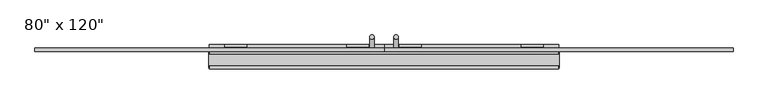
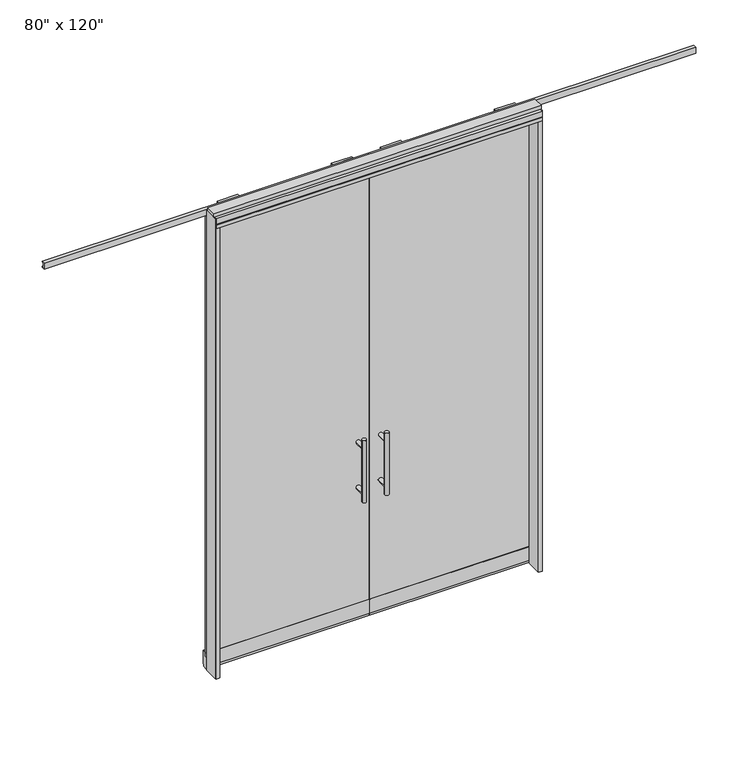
"""IFC4 building model written with IfcOpenShell, lengths in millimetres: furniture geometry."""

from ifc_helpers import new_model, si_unit, frame, origin, origin_with_axes, place, context, project, spatial, polyline, circle_curve, ellipse_curve, outline, extrude, source, transform, mapped, element, save
from ifc_brep_helpers import plane_surface, cylinder_surface, advanced_brep


def furniture_37c0ffb3(model_context):
    return source(origin(), model_context, "Body", "SolidModel", [
        extrude(outline(polyline([(-1072.0995229, 71.8277216), (-60.0365229, 71.8277216), (-60.0365229, 61.6677216), (-1072.0995229, 61.6677216), (-1072.0995229, 71.8277216)])), frame((0.0, 0.0, 77.851), z_axis=(0.0, 0.0, 1.0), x_axis=(1.0, 0.0, 0.0)), (0.0, 0.0, 1.0), 2897.759),
        advanced_brep(
        [(-117.3135229, -5.8962784, 1219.2), (-142.7135229, -5.8962784, 1219.2), (-117.3135229, -5.8962784, 812.8), (-142.7135229, -5.8962784, 812.8), (-142.7135229, -5.8962784, 1164.336), (-142.7135229, -5.8962784, 867.664), (-117.3135229, -5.8962784, 867.664), (-117.3135229, -5.8962784, 1164.336), (-117.3135229, 61.6677216, 1164.336), (-142.7135229, 61.6677216, 1164.336), (-117.3135229, 61.6677216, 867.664), (-142.7135229, 61.6677216, 867.664)],
        [
            (0, 1, circle_curve(frame((-130.0135229, -5.8962784, 1219.2), z_axis=(0.0, 0.0, 1.0), x_axis=(-1.0, 0.0, 0.0)), 12.7)),
            (1, 0, circle_curve(frame((-130.0135229, -5.8962784, 1219.2), z_axis=(0.0, 0.0, 1.0), x_axis=(-1.0, 0.0, 0.0)), 12.7)),
            (2, 3, circle_curve(frame((-130.0135229, -5.8962784, 812.8), z_axis=(0.0, 0.0, -1.0), x_axis=(-1.0, 0.0, 0.0)), 12.7)),
            (3, 2, circle_curve(frame((-130.0135229, -5.8962784, 812.8), z_axis=(0.0, 0.0, -1.0), x_axis=(-1.0, 0.0, 0.0)), 12.7)),
            (1, 4),
            (4, 5),
            (5, 3),
            (2, 6),
            (6, 7),
            (7, 0),
            (7, 4, ellipse_curve(frame((-130.0135229, -5.8962784, 1164.336), z_axis=(0.0, -0.707106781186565, 0.70710678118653), x_axis=(0.0, 0.70710678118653, 0.707106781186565)), 17.9605122, 12.7)),
            (6, 5, ellipse_curve(frame((-130.0135229, -5.8962784, 867.664), z_axis=(0.0, -0.707106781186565, 0.70710678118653), x_axis=(0.0, 0.70710678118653, 0.707106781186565)), 17.9605122, 12.7)),
            (4, 7, ellipse_curve(frame((-130.0135229, -5.8962784, 1164.336), z_axis=(0.0, -0.70710678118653, -0.7071067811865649), x_axis=(0.0, -0.7071067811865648, 0.7071067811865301)), 17.9605122, 12.7)),
            (5, 6, ellipse_curve(frame((-130.0135229, -5.8962784, 867.664), z_axis=(0.0, -0.70710678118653, -0.7071067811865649), x_axis=(0.0, -0.7071067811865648, 0.7071067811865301)), 17.9605122, 12.7)),
            (8, 9, circle_curve(frame((-130.0135229, 61.6677216, 1164.336), z_axis=(0.0, 1.0, 0.0), x_axis=(-1.0, 0.0, 0.0)), 12.7)),
            (9, 8, circle_curve(frame((-130.0135229, 61.6677216, 1164.336), z_axis=(0.0, 1.0, 0.0), x_axis=(-1.0, 0.0, 0.0)), 12.7)),
            (8, 7),
            (4, 9),
            (10, 11, circle_curve(frame((-130.0135229, 61.6677216, 867.664), z_axis=(0.0, 1.0, 0.0), x_axis=(-1.0, 0.0, 0.0)), 12.7)),
            (11, 10, circle_curve(frame((-130.0135229, 61.6677216, 867.664), z_axis=(0.0, 1.0, 0.0), x_axis=(-1.0, 0.0, 0.0)), 12.7)),
            (10, 6),
            (5, 11),
        ],
        [
            plane_surface(frame((-142.7135229, -5.8962784, 1219.2), z_axis=(0.0, 0.0, 1.0), x_axis=(0.0, 1.0, 0.0))),
            plane_surface(frame((-142.7135229, -5.8962784, 812.8), z_axis=(0.0, 0.0, -1.0), x_axis=(0.0, -1.0, 0.0))),
            cylinder_surface(frame((-130.0135229, -5.8962784, 812.8), z_axis=(0.0, 0.0, 1.0), x_axis=(-1.0, 0.0, 0.0)), 12.7),
            plane_surface(frame((-142.7135229, 61.6677216, 1164.336), z_axis=(0.0, 1.0, 0.0), x_axis=(0.0, 0.0, -1.0))),
            cylinder_surface(frame((-130.0135229, 61.6677216, 1164.336), z_axis=(0.0, -1.0, 0.0), x_axis=(-1.0, 0.0, 0.0)), 12.7),
            plane_surface(frame((-142.7135229, 61.6677216, 867.664), z_axis=(0.0, 1.0, 0.0), x_axis=(0.0, 0.0, -1.0))),
            cylinder_surface(frame((-130.0135229, 61.6677216, 867.664), z_axis=(0.0, -1.0, 0.0), x_axis=(-1.0, 0.0, 0.0)), 12.7),
        ],
        [
            (0, [[1, 2]]),
            (1, [[3, 4]]),
            (2, [[5, 6, 7, -3, 8, 9, 10, -2]]),
            (2, [[-10, 11, -5, -1]]),
            (2, [[-9, 12, -6, 13]]),
            (2, [[-7, 14, -8, -4]]),
            (3, [[15, 16]]),
            (4, [[17, -13, 18, -15]]),
            (4, [[-18, -11, -17, -16]]),
            (5, [[19, 20]]),
            (6, [[21, -14, 22, -19]]),
            (6, [[-22, -12, -21, -20]]),
        ],
    ),
        advanced_brep(
        [(-117.3135229, 139.3917216, 1219.2), (-142.7135229, 139.3917216, 1219.2), (-117.3135229, 139.3917216, 812.8), (-142.7135229, 139.3917216, 812.8), (-117.3135229, 139.3917216, 1164.336), (-117.3135229, 139.3917216, 867.664), (-142.7135229, 139.3917216, 867.664), (-142.7135229, 139.3917216, 1164.336), (-117.3135229, 71.8277216, 1164.336), (-142.7135229, 71.8277216, 1164.336), (-117.3135229, 71.8277216, 867.664), (-142.7135229, 71.8277216, 867.664)],
        [
            (0, 1, circle_curve(frame((-130.0135229, 139.3917216, 1219.2), z_axis=(0.0, 0.0, 1.0), x_axis=(-1.0, 0.0, 0.0)), 12.7)),
            (1, 0, circle_curve(frame((-130.0135229, 139.3917216, 1219.2), z_axis=(0.0, 0.0, 1.0), x_axis=(-1.0, 0.0, 0.0)), 12.7)),
            (2, 3, circle_curve(frame((-130.0135229, 139.3917216, 812.8), z_axis=(0.0, 0.0, -1.0), x_axis=(-1.0, 0.0, 0.0)), 12.7)),
            (3, 2, circle_curve(frame((-130.0135229, 139.3917216, 812.8), z_axis=(0.0, 0.0, -1.0), x_axis=(-1.0, 0.0, 0.0)), 12.7)),
            (0, 4),
            (4, 5),
            (5, 2),
            (3, 6),
            (6, 7),
            (7, 1),
            (7, 4, ellipse_curve(frame((-130.0135229, 139.3917216, 1164.336), z_axis=(0.0, 0.707106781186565, 0.70710678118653), x_axis=(0.0, -0.70710678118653, 0.707106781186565)), 17.9605122, 12.7)),
            (5, 6, ellipse_curve(frame((-130.0135229, 139.3917216, 867.664), z_axis=(0.0, 0.70710678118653, -0.7071067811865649), x_axis=(0.0, 0.7071067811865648, 0.7071067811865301)), 17.9605122, 12.7)),
            (4, 7, ellipse_curve(frame((-130.0135229, 139.3917216, 1164.336), z_axis=(0.0, 0.70710678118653, -0.7071067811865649), x_axis=(0.0, 0.7071067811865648, 0.7071067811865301)), 17.9605122, 12.7)),
            (6, 5, ellipse_curve(frame((-130.0135229, 139.3917216, 867.664), z_axis=(0.0, 0.707106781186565, 0.70710678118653), x_axis=(0.0, -0.70710678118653, 0.707106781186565)), 17.9605122, 12.7)),
            (8, 9, circle_curve(frame((-130.0135229, 71.8277216, 1164.336), z_axis=(0.0, -1.0, 0.0), x_axis=(-1.0, 0.0, 0.0)), 12.7)),
            (9, 8, circle_curve(frame((-130.0135229, 71.8277216, 1164.336), z_axis=(0.0, -1.0, 0.0), x_axis=(-1.0, 0.0, 0.0)), 12.7)),
            (9, 7),
            (4, 8),
            (10, 11, circle_curve(frame((-130.0135229, 71.8277216, 867.664), z_axis=(0.0, -1.0, 0.0), x_axis=(-1.0, 0.0, 0.0)), 12.7)),
            (11, 10, circle_curve(frame((-130.0135229, 71.8277216, 867.664), z_axis=(0.0, -1.0, 0.0), x_axis=(-1.0, 0.0, 0.0)), 12.7)),
            (11, 6),
            (5, 10),
        ],
        [
            plane_surface(frame((-142.7135229, 139.3917216, 1219.2), z_axis=(0.0, 0.0, 1.0), x_axis=(0.0, -1.0, 0.0))),
            plane_surface(frame((-142.7135229, 139.3917216, 812.8), z_axis=(0.0, 0.0, -1.0), x_axis=(0.0, 1.0, 0.0))),
            cylinder_surface(frame((-130.0135229, 139.3917216, 812.8), z_axis=(0.0, 0.0, 1.0), x_axis=(-1.0, 0.0, 0.0)), 12.7),
            plane_surface(frame((-142.7135229, 71.8277216, 1164.336), z_axis=(0.0, -1.0, 0.0), x_axis=(0.0, 0.0, -1.0))),
            cylinder_surface(frame((-130.0135229, 71.8277216, 1164.336), z_axis=(0.0, 1.0, 0.0), x_axis=(-1.0, 0.0, 0.0)), 12.7),
            plane_surface(frame((-142.7135229, 71.8277216, 867.664), z_axis=(0.0, -1.0, 0.0), x_axis=(0.0, 0.0, -1.0))),
            cylinder_surface(frame((-130.0135229, 71.8277216, 867.664), z_axis=(0.0, 1.0, 0.0), x_axis=(-1.0, 0.0, 0.0)), 12.7),
        ],
        [
            (0, [[1, 2]]),
            (1, [[3, 4]]),
            (2, [[-1, 5, 6, 7, -4, 8, 9, 10]]),
            (2, [[-2, -10, 11, -5]]),
            (2, [[-3, -7, 12, -8]]),
            (2, [[13, -9, 14, -6]]),
            (3, [[15, 16]]),
            (4, [[-16, 17, -13, 18]]),
            (4, [[-15, -18, -11, -17]]),
            (5, [[19, 20]]),
            (6, [[-20, 21, -12, 22]]),
            (6, [[-19, -22, -14, -21]]),
        ],
    ),
        extrude(outline(polyline([(61.4137216, 2933.7), (57.8577216, 2933.7), (57.8577216, 2981.579), (80.4637216, 2981.579), (80.4637216, 3022.6), (95.9577216, 3022.6), (95.9577216, 2933.7), (73.7327216, 2933.7), (73.7327216, 2975.61), (61.4137216, 2975.61), (61.4137216, 2933.7)])), frame((-276.3175229, 0.0, 0.0), z_axis=(1.0, 0.0, 0.0), x_axis=(0.0, 1.0, 0.0)), (0.0, 0.0, 1.0), 128.016),
        extrude(outline(polyline([(61.4137216, 2933.7), (57.8577216, 2933.7), (57.8577216, 2981.579), (80.4637216, 2981.579), (80.4637216, 3022.6), (95.9577216, 3022.6), (95.9577216, 2933.7), (73.7327216, 2933.7), (73.7327216, 2975.61), (61.4137216, 2975.61), (61.4137216, 2933.7)])), frame((-983.8345229, 0.0, 0.0), z_axis=(1.0, 0.0, 0.0), x_axis=(0.0, 1.0, 0.0)), (0.0, 0.0, 1.0), 128.016),
        extrude(outline(polyline([(75.3837216, 2986.278), (53.6667216, 2986.278), (53.6667216, 3025.902), (75.3837216, 3025.902), (75.3837216, 3020.568), (62.6837216, 3020.568), (62.6837216, 2991.612), (75.3837216, 2991.612), (75.3837216, 2986.278)])), frame((-2084.1625229, 0.0, 0.0), z_axis=(1.0, 0.0, 0.0), x_axis=(0.0, 1.0, 0.0)), (0.0, 0.0, 1.0), 2024.126),
        extrude(outline(polyline([(72.3357216, 77.851), (72.3357216, 105.664), (94.5607216, 105.664), (94.5607216, 16.764), (90.7507216, 16.764), (90.7507216, 0.0), (61.6677216, 0.0), (61.6677216, 16.764), (57.8577216, 16.764), (57.8577216, 105.664), (61.4137216, 105.664), (61.4137216, 77.851), (72.3357216, 77.851)])), frame((-1072.0995229, 0.0, 0.0), z_axis=(1.0, 0.0, 0.0), x_axis=(0.0, 1.0, 0.0)), (0.0, 0.0, 1.0), 1012.063),
        extrude(outline(polyline([(952.0264771, 71.8277216), (952.0264771, 61.6677216), (-60.0365229, 61.6677216), (-60.0365229, 71.8277216), (952.0264771, 71.8277216)])), frame((0.0, 0.0, 77.851), z_axis=(0.0, 0.0, 1.0), x_axis=(1.0, 0.0, 0.0)), (0.0, 0.0, 1.0), 2897.759),
        advanced_brep(
        [(-2.7595229, -5.8962784, 1219.2), (22.6404771, -5.8962784, 1219.2), (-2.7595229, -5.8962784, 812.8), (22.6404771, -5.8962784, 812.8), (-2.7595229, -5.8962784, 1164.336), (-2.7595229, -5.8962784, 867.664), (22.6404771, -5.8962784, 867.664), (22.6404771, -5.8962784, 1164.336), (-2.7595229, 61.6677216, 1164.336), (22.6404771, 61.6677216, 1164.336), (-2.7595229, 61.6677216, 867.664), (22.6404771, 61.6677216, 867.664)],
        [
            (0, 1, circle_curve(frame((9.9404771, -5.8962784, 1219.2), z_axis=(0.0, 0.0, 1.0), x_axis=(1.0, 0.0, 0.0)), 12.7)),
            (1, 0, circle_curve(frame((9.9404771, -5.8962784, 1219.2), z_axis=(0.0, 0.0, 1.0), x_axis=(1.0, 0.0, 0.0)), 12.7)),
            (2, 3, circle_curve(frame((9.9404771, -5.8962784, 812.8), z_axis=(0.0, 0.0, -1.0), x_axis=(1.0, 0.0, 0.0)), 12.7)),
            (3, 2, circle_curve(frame((9.9404771, -5.8962784, 812.8), z_axis=(0.0, 0.0, -1.0), x_axis=(1.0, 0.0, 0.0)), 12.7)),
            (0, 4),
            (4, 5),
            (5, 2),
            (3, 6),
            (6, 7),
            (7, 1),
            (7, 4, ellipse_curve(frame((9.9404771, -5.8962784, 1164.336), z_axis=(0.0, -0.707106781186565, 0.70710678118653), x_axis=(0.0, 0.70710678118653, 0.707106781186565)), 17.9605122, 12.7)),
            (5, 6, ellipse_curve(frame((9.9404771, -5.8962784, 867.664), z_axis=(0.0, -0.70710678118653, -0.7071067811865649), x_axis=(0.0, -0.7071067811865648, 0.7071067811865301)), 17.9605122, 12.7)),
            (4, 7, ellipse_curve(frame((9.9404771, -5.8962784, 1164.336), z_axis=(0.0, -0.70710678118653, -0.7071067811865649), x_axis=(0.0, -0.7071067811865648, 0.7071067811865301)), 17.9605122, 12.7)),
            (6, 5, ellipse_curve(frame((9.9404771, -5.8962784, 867.664), z_axis=(0.0, -0.707106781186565, 0.70710678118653), x_axis=(0.0, 0.70710678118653, 0.707106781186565)), 17.9605122, 12.7)),
            (8, 9, circle_curve(frame((9.9404771, 61.6677216, 1164.336), z_axis=(0.0, 1.0, 0.0), x_axis=(1.0, 0.0, 0.0)), 12.7)),
            (9, 8, circle_curve(frame((9.9404771, 61.6677216, 1164.336), z_axis=(0.0, 1.0, 0.0), x_axis=(1.0, 0.0, 0.0)), 12.7)),
            (9, 7),
            (4, 8),
            (10, 11, circle_curve(frame((9.9404771, 61.6677216, 867.664), z_axis=(0.0, 1.0, 0.0), x_axis=(1.0, 0.0, 0.0)), 12.7)),
            (11, 10, circle_curve(frame((9.9404771, 61.6677216, 867.664), z_axis=(0.0, 1.0, 0.0), x_axis=(1.0, 0.0, 0.0)), 12.7)),
            (11, 6),
            (5, 10),
        ],
        [
            plane_surface(frame((22.6404771, -5.8962784, 1219.2), z_axis=(0.0, 0.0, 1.0), x_axis=(0.0, 1.0, 0.0))),
            plane_surface(frame((22.6404771, -5.8962784, 812.8), z_axis=(0.0, 0.0, -1.0), x_axis=(0.0, -1.0, 0.0))),
            cylinder_surface(frame((9.9404771, -5.8962784, 812.8), z_axis=(0.0, 0.0, 1.0), x_axis=(1.0, 0.0, 0.0)), 12.7),
            plane_surface(frame((22.6404771, 61.6677216, 1164.336), z_axis=(0.0, 1.0, 0.0), x_axis=(0.0, 0.0, -1.0))),
            cylinder_surface(frame((9.9404771, 61.6677216, 1164.336), z_axis=(0.0, -1.0, 0.0), x_axis=(1.0, 0.0, 0.0)), 12.7),
            plane_surface(frame((22.6404771, 61.6677216, 867.664), z_axis=(0.0, 1.0, 0.0), x_axis=(0.0, 0.0, -1.0))),
            cylinder_surface(frame((9.9404771, 61.6677216, 867.664), z_axis=(0.0, -1.0, 0.0), x_axis=(1.0, 0.0, 0.0)), 12.7),
        ],
        [
            (0, [[1, 2]]),
            (1, [[3, 4]]),
            (2, [[-1, 5, 6, 7, -4, 8, 9, 10]]),
            (2, [[-2, -10, 11, -5]]),
            (2, [[-3, -7, 12, -8]]),
            (2, [[13, -9, 14, -6]]),
            (3, [[15, 16]]),
            (4, [[-16, 17, -13, 18]]),
            (4, [[-15, -18, -11, -17]]),
            (5, [[19, 20]]),
            (6, [[-20, 21, -12, 22]]),
            (6, [[-19, -22, -14, -21]]),
        ],
    ),
        advanced_brep(
        [(-2.7595229, 139.3917216, 1219.2), (22.6404771, 139.3917216, 1219.2), (-2.7595229, 139.3917216, 812.8), (22.6404771, 139.3917216, 812.8), (22.6404771, 139.3917216, 1164.336), (22.6404771, 139.3917216, 867.664), (-2.7595229, 139.3917216, 867.664), (-2.7595229, 139.3917216, 1164.336), (-2.7595229, 71.8277216, 1164.336), (22.6404771, 71.8277216, 1164.336), (-2.7595229, 71.8277216, 867.664), (22.6404771, 71.8277216, 867.664)],
        [
            (0, 1, circle_curve(frame((9.9404771, 139.3917216, 1219.2), z_axis=(0.0, 0.0, 1.0), x_axis=(1.0, 0.0, 0.0)), 12.7)),
            (1, 0, circle_curve(frame((9.9404771, 139.3917216, 1219.2), z_axis=(0.0, 0.0, 1.0), x_axis=(1.0, 0.0, 0.0)), 12.7)),
            (2, 3, circle_curve(frame((9.9404771, 139.3917216, 812.8), z_axis=(0.0, 0.0, -1.0), x_axis=(1.0, 0.0, 0.0)), 12.7)),
            (3, 2, circle_curve(frame((9.9404771, 139.3917216, 812.8), z_axis=(0.0, 0.0, -1.0), x_axis=(1.0, 0.0, 0.0)), 12.7)),
            (1, 4),
            (4, 5),
            (5, 3),
            (2, 6),
            (6, 7),
            (7, 0),
            (7, 4, ellipse_curve(frame((9.9404771, 139.3917216, 1164.336), z_axis=(0.0, 0.707106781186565, 0.70710678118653), x_axis=(0.0, -0.70710678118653, 0.707106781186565)), 17.9605122, 12.7)),
            (6, 5, ellipse_curve(frame((9.9404771, 139.3917216, 867.664), z_axis=(0.0, 0.707106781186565, 0.70710678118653), x_axis=(0.0, -0.70710678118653, 0.707106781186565)), 17.9605122, 12.7)),
            (4, 7, ellipse_curve(frame((9.9404771, 139.3917216, 1164.336), z_axis=(0.0, 0.70710678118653, -0.7071067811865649), x_axis=(0.0, 0.7071067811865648, 0.7071067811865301)), 17.9605122, 12.7)),
            (5, 6, ellipse_curve(frame((9.9404771, 139.3917216, 867.664), z_axis=(0.0, 0.70710678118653, -0.7071067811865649), x_axis=(0.0, 0.7071067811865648, 0.7071067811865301)), 17.9605122, 12.7)),
            (8, 9, circle_curve(frame((9.9404771, 71.8277216, 1164.336), z_axis=(0.0, -1.0, 0.0), x_axis=(1.0, 0.0, 0.0)), 12.7)),
            (9, 8, circle_curve(frame((9.9404771, 71.8277216, 1164.336), z_axis=(0.0, -1.0, 0.0), x_axis=(1.0, 0.0, 0.0)), 12.7)),
            (8, 7),
            (4, 9),
            (10, 11, circle_curve(frame((9.9404771, 71.8277216, 867.664), z_axis=(0.0, -1.0, 0.0), x_axis=(1.0, 0.0, 0.0)), 12.7)),
            (11, 10, circle_curve(frame((9.9404771, 71.8277216, 867.664), z_axis=(0.0, -1.0, 0.0), x_axis=(1.0, 0.0, 0.0)), 12.7)),
            (10, 6),
            (5, 11),
        ],
        [
            plane_surface(frame((22.6404771, 139.3917216, 1219.2), z_axis=(0.0, 0.0, 1.0), x_axis=(0.0, -1.0, 0.0))),
            plane_surface(frame((22.6404771, 139.3917216, 812.8), z_axis=(0.0, 0.0, -1.0), x_axis=(0.0, 1.0, 0.0))),
            cylinder_surface(frame((9.9404771, 139.3917216, 812.8), z_axis=(0.0, 0.0, 1.0), x_axis=(1.0, 0.0, 0.0)), 12.7),
            plane_surface(frame((22.6404771, 71.8277216, 1164.336), z_axis=(0.0, -1.0, 0.0), x_axis=(0.0, 0.0, -1.0))),
            cylinder_surface(frame((9.9404771, 71.8277216, 1164.336), z_axis=(0.0, 1.0, 0.0), x_axis=(1.0, 0.0, 0.0)), 12.7),
            plane_surface(frame((22.6404771, 71.8277216, 867.664), z_axis=(0.0, -1.0, 0.0), x_axis=(0.0, 0.0, -1.0))),
            cylinder_surface(frame((9.9404771, 71.8277216, 867.664), z_axis=(0.0, 1.0, 0.0), x_axis=(1.0, 0.0, 0.0)), 12.7),
        ],
        [
            (0, [[1, 2]]),
            (1, [[3, 4]]),
            (2, [[5, 6, 7, -3, 8, 9, 10, -2]]),
            (2, [[-10, 11, -5, -1]]),
            (2, [[-9, 12, -6, 13]]),
            (2, [[-7, 14, -8, -4]]),
            (3, [[15, 16]]),
            (4, [[17, -13, 18, -15]]),
            (4, [[-18, -11, -17, -16]]),
            (5, [[19, 20]]),
            (6, [[21, -14, 22, -19]]),
            (6, [[-22, -12, -21, -20]]),
        ],
    ),
        extrude(outline(polyline([(61.4137216, 2933.7), (57.8577216, 2933.7), (57.8577216, 2981.579), (80.4637216, 2981.579), (80.4637216, 3022.6), (95.9577216, 3022.6), (95.9577216, 2933.7), (73.7327216, 2933.7), (73.7327216, 2975.61), (61.4137216, 2975.61), (61.4137216, 2933.7)])), frame((28.2284771, 0.0, 0.0), z_axis=(1.0, 0.0, 0.0), x_axis=(0.0, 1.0, 0.0)), (0.0, 0.0, 1.0), 128.016),
        extrude(outline(polyline([(61.4137216, 2933.7), (57.8577216, 2933.7), (57.8577216, 2981.579), (80.4637216, 2981.579), (80.4637216, 3022.6), (95.9577216, 3022.6), (95.9577216, 2933.7), (73.7327216, 2933.7), (73.7327216, 2975.61), (61.4137216, 2975.61), (61.4137216, 2933.7)])), frame((735.7454771, 0.0, 0.0), z_axis=(1.0, 0.0, 0.0), x_axis=(0.0, 1.0, 0.0)), (0.0, 0.0, 1.0), 128.016),
        extrude(outline(polyline([(75.3837216, 2986.278), (53.6667216, 2986.278), (53.6667216, 3025.902), (75.3837216, 3025.902), (75.3837216, 3020.568), (62.6837216, 3020.568), (62.6837216, 2991.612), (75.3837216, 2991.612), (75.3837216, 2986.278)])), frame((-60.0365229, 0.0, 0.0), z_axis=(1.0, 0.0, 0.0), x_axis=(0.0, 1.0, 0.0)), (0.0, 0.0, 1.0), 2024.126),
        extrude(outline(polyline([(72.3357216, 77.851), (72.3357216, 105.664), (94.5607216, 105.664), (94.5607216, 16.764), (90.7507216, 16.764), (90.7507216, 0.0), (61.6677216, 0.0), (61.6677216, 16.764), (57.8577216, 16.764), (57.8577216, 105.664), (61.4137216, 105.664), (61.4137216, 77.851), (72.3357216, 77.851)])), frame((-60.0365229, 0.0, 0.0), z_axis=(1.0, 0.0, 0.0), x_axis=(0.0, 1.0, 0.0)), (0.0, 0.0, 1.0), 1012.063),
        extrude(outline(polyline([(-1072.0995229, 55.3177216), (952.0264771, 55.3177216), (952.0264771, -46.2822784), (-1072.0995229, -46.2822784), (-1072.0995229, 55.3177216)])), frame((0.0, 0.0, 2959.1), z_axis=(0.0, 0.0, 1.0), x_axis=(1.0, 0.0, 0.0)), (0.0, 0.0, 1.0), 22.225),
        extrude(outline(polyline([(955.9634771, 50.3647216), (955.9634771, -41.3292784), (952.0264771, -41.3292784), (952.0264771, 50.3647216), (955.9634771, 50.3647216)])), origin_with_axes(), (0.0, 0.0, 1.0), 3022.6),
        extrude(outline(polyline([(-1076.0365229, 50.3647216), (-1072.0995229, 50.3647216), (-1072.0995229, -41.3292784), (-1076.0365229, -41.3292784), (-1076.0365229, 50.3647216)])), origin_with_axes(), (0.0, 0.0, 1.0), 3022.6),
        extrude(outline(polyline([(929.8014771, 55.3177216), (952.0264771, 55.3177216), (952.0264771, -46.2822784), (929.8014771, -46.2822784), (929.8014771, 55.3177216)])), origin_with_axes(), (0.0, 0.0, 1.0), 2959.1),
        extrude(outline(polyline([(-1049.8745229, 55.3177216), (-1049.8745229, -46.2822784), (-1072.0995229, -46.2822784), (-1072.0995229, 55.3177216), (-1049.8745229, 55.3177216)])), origin_with_axes(), (0.0, 0.0, 1.0), 2959.1),
        extrude(outline(polyline([(55.3177216, 2986.278), (50.3647216, 2986.278), (50.3647216, 2981.325), (-41.3292784, 2981.325), (-41.3292784, 2986.278), (-46.2822784, 2986.278), (-46.2822784, 3022.6), (55.3177216, 3022.6), (55.3177216, 2986.278)])), frame((-1072.0995229, 0.0, 0.0), z_axis=(1.0, 0.0, 0.0), x_axis=(0.0, 1.0, 0.0)), (0.0, 0.0, 1.0), 2024.126),
        extrude(outline(polyline([(-1076.0365229, 37.0297216), (955.9634771, 37.0297216), (955.9634771, -27.9942784), (-1076.0365229, -27.9942784), (-1076.0365229, 37.0297216)])), frame((0.0, 0.0, 3022.6), z_axis=(0.0, 0.0, 1.0), x_axis=(1.0, 0.0, 0.0)), (0.0, 0.0, 1.0), 25.4),
    ])


if __name__ == "__main__":
    model = new_model("IFC4")
    model_context = context("Model", 3, world=origin())
    ifc_project = project(units=[si_unit("LENGTHUNIT", "METRE", prefix="MILLI")], contexts=[model_context])
    site = spatial("IfcSite", under=ifc_project)
    building = spatial("IfcBuilding", under=site)
    placement = place(None, origin())
    furniture_shape = furniture_37c0ffb3(model_context)
    element("IfcFurniture", 1, ObjectType="Haworth_Enclose_Door_DoubleSliding : 80\" x 120\"", at=placement, inside=building, context=model_context, shape_type="MappedRepresentation", body=[
        mapped(furniture_shape, transform((0.0, 0.0, 0.0), x_axis=(1.0, 0.0, 0.0), y_axis=(0.0, 1.0, 0.0), z_axis=(0.0, 0.0, 1.0))),
    ])
    save(model, "model.ifc")
